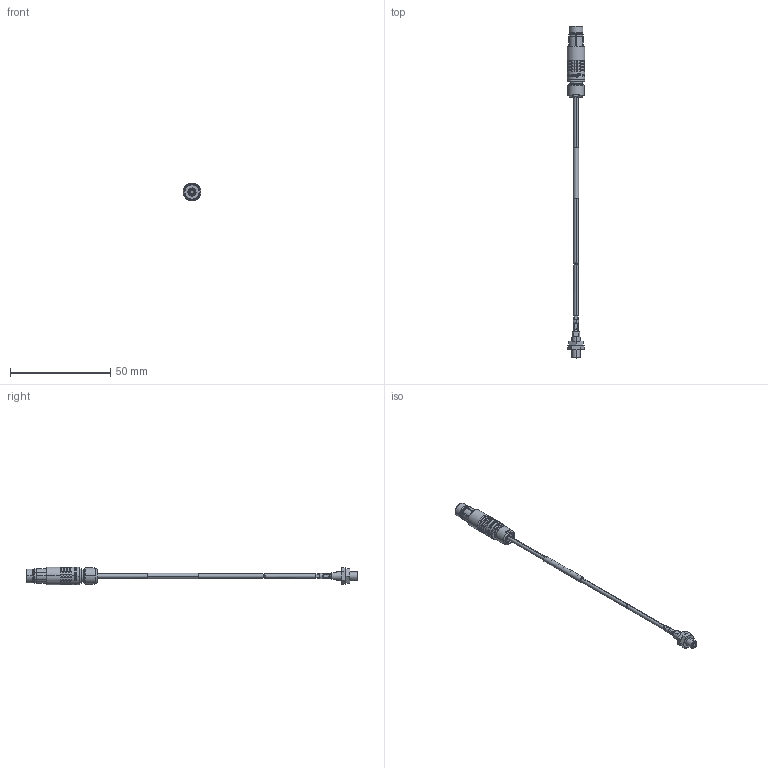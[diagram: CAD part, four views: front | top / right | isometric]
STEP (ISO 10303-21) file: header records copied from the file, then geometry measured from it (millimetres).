
FILE_DESCRIPTION((''),'2;1');
FILE_NAME('0000268872_ASM','2019-11-15T09:02:06',('11000065'),(''),'CREO PARAMETRIC BY PTC INC, 2019030','CREO PARAMETRIC BY PTC INC, 2019030','');
FILE_SCHEMA(('AUTOMOTIVE_DESIGN { 1 0 10303 214 1 1 1 1 }'));
Length unit declared in the file: millimetre
Products named in the file (6): 0000263786_AF1; 0000268675; 0000268666; 0000181001; 0000268662; 0000268872_ASM
Assembly tree (6 placements, depth 2):
  0000268872_ASM
    0000263786_AF1
    0000268675
    0000268666  x2
    0000181001
    0000268662
Bounding box: 8.9 x 165.52 x 8.9 mm (x, y, z)
Volume: 2273 mm3; surface area: 4421.4 mm2
Topology: 7 solids, 13 shells, 959 faces, 2563 edges, 1667 vertices
Faces by surface type: bspline 340, plane 324, cylinder 153, cone 114, torus 26, extrusion 2
Entity records: 49189 total; most frequent: CARTESIAN_POINT 13998, ORIENTED_EDGE 4974, DIRECTION 4894, PRESENTATION_STYLE_ASSIGNMENT 2529, STYLED_ITEM 2523, CURVE_STYLE 2514, EDGE_CURVE 2493, AXIS2_PLACEMENT_3D 1848
